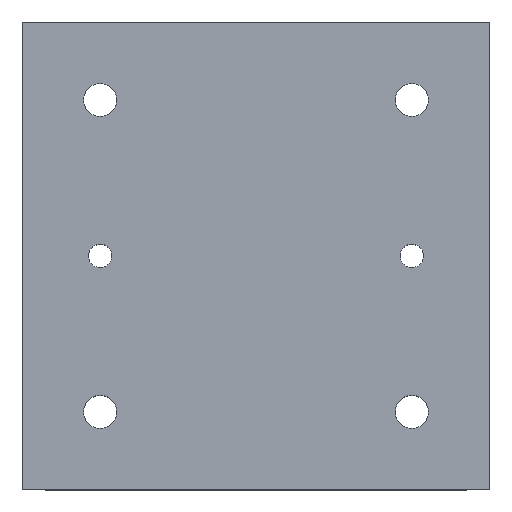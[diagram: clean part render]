
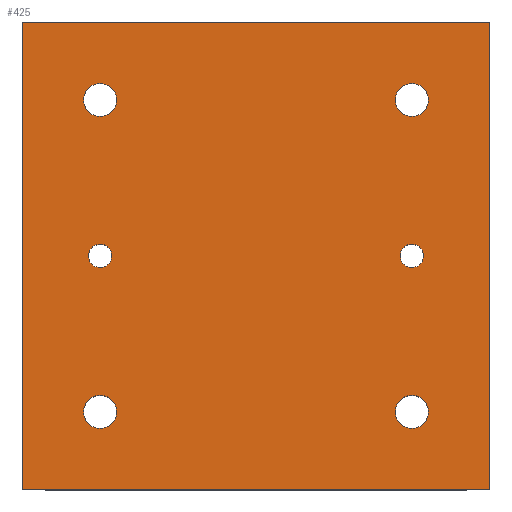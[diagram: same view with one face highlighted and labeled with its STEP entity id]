
A CAD part, top view. The second image highlights one B-rep face of the part: STEP entity #425.
In plain terms, the highlighted planar face has unit normal (0, 0, 1).
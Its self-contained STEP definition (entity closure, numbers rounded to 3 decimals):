
#9 = ORIENTED_EDGE ( 'NONE', *, *, #309, .F. ) ;
#29 = FACE_BOUND ( 'NONE', #1455, .T. ) ;
#39 = AXIS2_PLACEMENT_3D ( 'NONE', #465, #1230, #1990 ) ;
#61 = VERTEX_POINT ( 'NONE', #2461 ) ;
#72 = CARTESIAN_POINT ( 'NONE',  ( -40., 40., 25.474 ) ) ;
#85 = CIRCLE ( 'NONE', #1496, 4.25 ) ;
#91 = DIRECTION ( 'NONE',  ( 0., 0., 1. ) ) ;
#116 = LINE ( 'NONE', #892, #1014 ) ;
#171 = ORIENTED_EDGE ( 'NONE', *, *, #1764, .F. ) ;
#193 = EDGE_CURVE ( 'NONE', #1191, #2479, #1534, .T. ) ;
#205 = AXIS2_PLACEMENT_3D ( 'NONE', #426, #1192, #1953 ) ;
#208 = CARTESIAN_POINT ( 'NONE',  ( -60., 60., 25.474 ) ) ;
#209 = EDGE_CURVE ( 'NONE', #2267, #303, #1850, .T. ) ;
#219 = ORIENTED_EDGE ( 'NONE', *, *, #193, .F. ) ;
#222 = EDGE_CURVE ( 'NONE', #2120, #945, #2167, .T. ) ;
#244 = ORIENTED_EDGE ( 'NONE', *, *, #2383, .F. ) ;
#256 = CARTESIAN_POINT ( 'NONE',  ( -44.25, 40., 25.474 ) ) ;
#260 = ORIENTED_EDGE ( 'NONE', *, *, #1750, .F. ) ;
#290 = CARTESIAN_POINT ( 'NONE',  ( 40., -40., 25.474 ) ) ;
#291 = CARTESIAN_POINT ( 'NONE',  ( -40., 0., 25.474 ) ) ;
#297 = CARTESIAN_POINT ( 'NONE',  ( -40., 40., 25.474 ) ) ;
#303 = VERTEX_POINT ( 'NONE', #544 ) ;
#309 = EDGE_CURVE ( 'NONE', #906, #2240, #1311, .T. ) ;
#315 = AXIS2_PLACEMENT_3D ( 'NONE', #1816, #91, #869 ) ;
#351 = DIRECTION ( 'NONE',  ( 0., -1., 0. ) ) ;
#364 = LINE ( 'NONE', #1710, #1740 ) ;
#369 = AXIS2_PLACEMENT_3D ( 'NONE', #291, #1067, #1829 ) ;
#396 = EDGE_CURVE ( 'NONE', #2255, #1969, #979, .T. ) ;
#408 = CIRCLE ( 'NONE', #1815, 3. ) ;
#420 = CARTESIAN_POINT ( 'NONE',  ( -40., 0., 25.474 ) ) ;
#425 = ADVANCED_FACE ( 'NONE', ( #1759, #29, #807, #1570, #2326, #622, #1383 ), #2141, .F. ) ;
#426 = CARTESIAN_POINT ( 'NONE',  ( 0., 0., 25.474 ) ) ;
#441 = AXIS2_PLACEMENT_3D ( 'NONE', #461, #1226, #1985 ) ;
#448 = AXIS2_PLACEMENT_3D ( 'NONE', #687, #1449, #2207 ) ;
#461 = CARTESIAN_POINT ( 'NONE',  ( -40., -40., 25.474 ) ) ;
#465 = CARTESIAN_POINT ( 'NONE',  ( 40., 40., 25.474 ) ) ;
#491 = CARTESIAN_POINT ( 'NONE',  ( 40., -40., 25.474 ) ) ;
#544 = CARTESIAN_POINT ( 'NONE',  ( 35.75, -40., 25.474 ) ) ;
#609 = DIRECTION ( 'NONE',  ( 0., 0., 1. ) ) ;
#622 = FACE_BOUND ( 'NONE', #650, .T. ) ;
#650 = EDGE_LOOP ( 'NONE', ( #2104, #2201 ) ) ;
#656 = VECTOR ( 'NONE', #351, 1000. ) ;
#662 = CARTESIAN_POINT ( 'NONE',  ( 40., 0., 25.474 ) ) ;
#687 = CARTESIAN_POINT ( 'NONE',  ( 40., 40., 25.474 ) ) ;
#706 = ORIENTED_EDGE ( 'NONE', *, *, #222, .F. ) ;
#761 = ORIENTED_EDGE ( 'NONE', *, *, #1286, .F. ) ;
#763 = CARTESIAN_POINT ( 'NONE',  ( -60., -60., 25.474 ) ) ;
#777 = AXIS2_PLACEMENT_3D ( 'NONE', #491, #1259, #2018 ) ;
#785 = EDGE_LOOP ( 'NONE', ( #1231, #761 ) ) ;
#807 = FACE_BOUND ( 'NONE', #2279, .T. ) ;
#823 = ORIENTED_EDGE ( 'NONE', *, *, #986, .F. ) ;
#831 = CARTESIAN_POINT ( 'NONE',  ( 60., 60., 25.474 ) ) ;
#850 = DIRECTION ( 'NONE',  ( 0., 0., 1. ) ) ;
#869 = DIRECTION ( 'NONE',  ( -1., 0., 0. ) ) ;
#882 = CARTESIAN_POINT ( 'NONE',  ( -44.25, -40., 25.474 ) ) ;
#892 = CARTESIAN_POINT ( 'NONE',  ( -60., -60., 25.474 ) ) ;
#906 = VERTEX_POINT ( 'NONE', #831 ) ;
#937 = AXIS2_PLACEMENT_3D ( 'NONE', #290, #1066, #1828 ) ;
#945 = VERTEX_POINT ( 'NONE', #256 ) ;
#979 = CIRCLE ( 'NONE', #2365, 3. ) ;
#986 = EDGE_CURVE ( 'NONE', #2479, #1191, #2206, .T. ) ;
#995 = VERTEX_POINT ( 'NONE', #1043 ) ;
#1014 = VECTOR ( 'NONE', #1655, 1000. ) ;
#1030 = EDGE_CURVE ( 'NONE', #2282, #995, #1452, .T. ) ;
#1043 = CARTESIAN_POINT ( 'NONE',  ( -37., 0., 25.474 ) ) ;
#1058 = VERTEX_POINT ( 'NONE', #882 ) ;
#1066 = DIRECTION ( 'NONE',  ( 0., 0., 1. ) ) ;
#1067 = DIRECTION ( 'NONE',  ( 0., 0., 1. ) ) ;
#1072 = DIRECTION ( 'NONE',  ( 0., 0., 1. ) ) ;
#1091 = AXIS2_PLACEMENT_3D ( 'NONE', #297, #1072, #1837 ) ;
#1136 = EDGE_CURVE ( 'NONE', #2240, #1468, #116, .T. ) ;
#1188 = DIRECTION ( 'NONE',  ( 0., 0., 1. ) ) ;
#1191 = VERTEX_POINT ( 'NONE', #1731 ) ;
#1192 = DIRECTION ( 'NONE',  ( 0., 0., -1. ) ) ;
#1212 = AXIS2_PLACEMENT_3D ( 'NONE', #420, #1188, #1949 ) ;
#1218 = EDGE_LOOP ( 'NONE', ( #9, #1800, #2410, #1941 ) ) ;
#1226 = DIRECTION ( 'NONE',  ( 0., 0., 1. ) ) ;
#1230 = DIRECTION ( 'NONE',  ( 0., 0., 1. ) ) ;
#1231 = ORIENTED_EDGE ( 'NONE', *, *, #1030, .F. ) ;
#1255 = EDGE_CURVE ( 'NONE', #2329, #906, #1929, .T. ) ;
#1259 = DIRECTION ( 'NONE',  ( 0., 0., 1. ) ) ;
#1286 = EDGE_CURVE ( 'NONE', #995, #2282, #2289, .T. ) ;
#1311 = LINE ( 'NONE', #2069, #656 ) ;
#1370 = DIRECTION ( 'NONE',  ( -1., 0., 0. ) ) ;
#1383 = FACE_OUTER_BOUND ( 'NONE', #1218, .T. ) ;
#1408 = CIRCLE ( 'NONE', #315, 4.25 ) ;
#1409 = EDGE_LOOP ( 'NONE', ( #1752, #171 ) ) ;
#1418 = CARTESIAN_POINT ( 'NONE',  ( -43., 0., 25.474 ) ) ;
#1425 = DIRECTION ( 'NONE',  ( 0., 0., 1. ) ) ;
#1449 = DIRECTION ( 'NONE',  ( 0., 0., 1. ) ) ;
#1452 = CIRCLE ( 'NONE', #369, 3. ) ;
#1455 = EDGE_LOOP ( 'NONE', ( #219, #823 ) ) ;
#1456 = EDGE_CURVE ( 'NONE', #1468, #2329, #364, .T. ) ;
#1468 = VERTEX_POINT ( 'NONE', #763 ) ;
#1496 = AXIS2_PLACEMENT_3D ( 'NONE', #72, #850, #1612 ) ;
#1528 = CIRCLE ( 'NONE', #441, 4.25 ) ;
#1534 = CIRCLE ( 'NONE', #448, 4.25 ) ;
#1566 = DIRECTION ( 'NONE',  ( 1., 0., 0. ) ) ;
#1570 = FACE_BOUND ( 'NONE', #1409, .T. ) ;
#1604 = CARTESIAN_POINT ( 'NONE',  ( 44.25, -40., 25.474 ) ) ;
#1612 = DIRECTION ( 'NONE',  ( -1., 0., 0. ) ) ;
#1651 = VECTOR ( 'NONE', #1566, 1000. ) ;
#1655 = DIRECTION ( 'NONE',  ( -1., 0., 0. ) ) ;
#1707 = CARTESIAN_POINT ( 'NONE',  ( 60., -60., 25.474 ) ) ;
#1710 = CARTESIAN_POINT ( 'NONE',  ( -60., -60., 25.474 ) ) ;
#1731 = CARTESIAN_POINT ( 'NONE',  ( 35.75, 40., 25.474 ) ) ;
#1740 = VECTOR ( 'NONE', #2472, 1000. ) ;
#1750 = EDGE_CURVE ( 'NONE', #945, #2120, #85, .T. ) ;
#1752 = ORIENTED_EDGE ( 'NONE', *, *, #396, .F. ) ;
#1759 = FACE_BOUND ( 'NONE', #1908, .T. ) ;
#1764 = EDGE_CURVE ( 'NONE', #1969, #2255, #408, .T. ) ;
#1800 = ORIENTED_EDGE ( 'NONE', *, *, #1255, .F. ) ;
#1815 = AXIS2_PLACEMENT_3D ( 'NONE', #662, #1425, #2183 ) ;
#1816 = CARTESIAN_POINT ( 'NONE',  ( -40., -40., 25.474 ) ) ;
#1828 = DIRECTION ( 'NONE',  ( -1., 0., 0. ) ) ;
#1829 = DIRECTION ( 'NONE',  ( -1., 0., 0. ) ) ;
#1837 = DIRECTION ( 'NONE',  ( -1., 0., 0. ) ) ;
#1838 = CARTESIAN_POINT ( 'NONE',  ( 44.25, 40., 25.474 ) ) ;
#1850 = CIRCLE ( 'NONE', #777, 4.25 ) ;
#1908 = EDGE_LOOP ( 'NONE', ( #260, #706 ) ) ;
#1929 = LINE ( 'NONE', #208, #1651 ) ;
#1941 = ORIENTED_EDGE ( 'NONE', *, *, #1136, .F. ) ;
#1949 = DIRECTION ( 'NONE',  ( -1., 0., 0. ) ) ;
#1953 = DIRECTION ( 'NONE',  ( -1., 0., 0. ) ) ;
#1969 = VERTEX_POINT ( 'NONE', #2010 ) ;
#1972 = EDGE_CURVE ( 'NONE', #303, #2267, #2007, .T. ) ;
#1985 = DIRECTION ( 'NONE',  ( -1., 0., 0. ) ) ;
#1990 = DIRECTION ( 'NONE',  ( -1., 0., 0. ) ) ;
#2007 = CIRCLE ( 'NONE', #937, 4.25 ) ;
#2010 = CARTESIAN_POINT ( 'NONE',  ( 43., 0., 25.474 ) ) ;
#2018 = DIRECTION ( 'NONE',  ( -1., 0., 0. ) ) ;
#2069 = CARTESIAN_POINT ( 'NONE',  ( 60., -60., 25.474 ) ) ;
#2104 = ORIENTED_EDGE ( 'NONE', *, *, #1972, .F. ) ;
#2120 = VERTEX_POINT ( 'NONE', #2202 ) ;
#2141 = PLANE ( 'NONE',  #205 ) ;
#2167 = CIRCLE ( 'NONE', #1091, 4.25 ) ;
#2183 = DIRECTION ( 'NONE',  ( -1., 0., 0. ) ) ;
#2201 = ORIENTED_EDGE ( 'NONE', *, *, #209, .F. ) ;
#2202 = CARTESIAN_POINT ( 'NONE',  ( -35.75, 40., 25.474 ) ) ;
#2206 = CIRCLE ( 'NONE', #39, 4.25 ) ;
#2207 = DIRECTION ( 'NONE',  ( -1., 0., 0. ) ) ;
#2240 = VERTEX_POINT ( 'NONE', #1707 ) ;
#2255 = VERTEX_POINT ( 'NONE', #2281 ) ;
#2267 = VERTEX_POINT ( 'NONE', #1604 ) ;
#2279 = EDGE_LOOP ( 'NONE', ( #2439, #244 ) ) ;
#2281 = CARTESIAN_POINT ( 'NONE',  ( 37., 0., 25.474 ) ) ;
#2282 = VERTEX_POINT ( 'NONE', #1418 ) ;
#2289 = CIRCLE ( 'NONE', #1212, 3. ) ;
#2310 = EDGE_CURVE ( 'NONE', #1058, #61, #1528, .T. ) ;
#2314 = CARTESIAN_POINT ( 'NONE',  ( 40., 0., 25.474 ) ) ;
#2326 = FACE_BOUND ( 'NONE', #785, .T. ) ;
#2329 = VERTEX_POINT ( 'NONE', #2373 ) ;
#2365 = AXIS2_PLACEMENT_3D ( 'NONE', #2314, #609, #1370 ) ;
#2373 = CARTESIAN_POINT ( 'NONE',  ( -60., 60., 25.474 ) ) ;
#2383 = EDGE_CURVE ( 'NONE', #61, #1058, #1408, .T. ) ;
#2410 = ORIENTED_EDGE ( 'NONE', *, *, #1456, .F. ) ;
#2439 = ORIENTED_EDGE ( 'NONE', *, *, #2310, .F. ) ;
#2461 = CARTESIAN_POINT ( 'NONE',  ( -35.75, -40., 25.474 ) ) ;
#2472 = DIRECTION ( 'NONE',  ( 0., 1., 0. ) ) ;
#2479 = VERTEX_POINT ( 'NONE', #1838 ) ;
